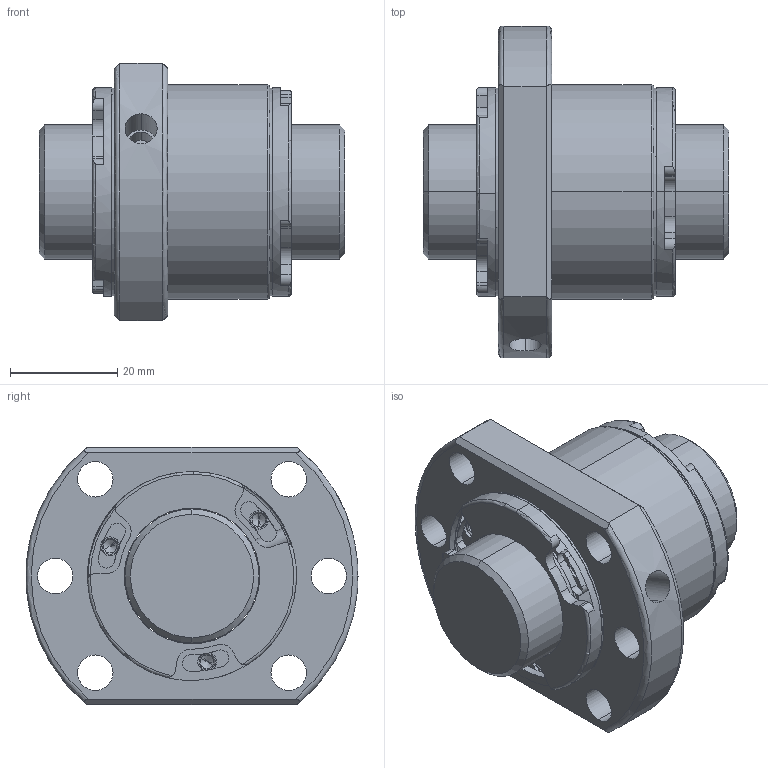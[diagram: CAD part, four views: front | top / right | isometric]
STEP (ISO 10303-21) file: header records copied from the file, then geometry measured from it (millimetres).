
FILE_DESCRIPTION (( 'STEP AP203' ), '1' );
FILE_NAME ('SFHR02505C1D-C.STEP', '2020-06-17T08:00:50', ( '' ), ( '' ), 'SwSTEP 2.0', 'SolidWorks 2013', '' );
FILE_SCHEMA (( 'CONFIG_CONTROL_DESIGN' ));
Length unit declared in the file: millimetre
Products named in the file (1): SFHR02505C1D-C
Bounding box: 57 x 61.93 x 48 mm (x, y, z)
Volume: 63720.6 mm3; surface area: 19535.5 mm2
Topology: 2 solids, 2 shells, 243 faces, 610 edges, 382 vertices
Faces by surface type: cylinder 132, plane 69, cone 28, torus 14
Entity records: 7697 total; most frequent: CARTESIAN_POINT 1548, DIRECTION 1424, ORIENTED_EDGE 1196, AXIS2_PLACEMENT_3D 606, EDGE_CURVE 598, VERTEX_POINT 382, CIRCLE 362, EDGE_LOOP 282
